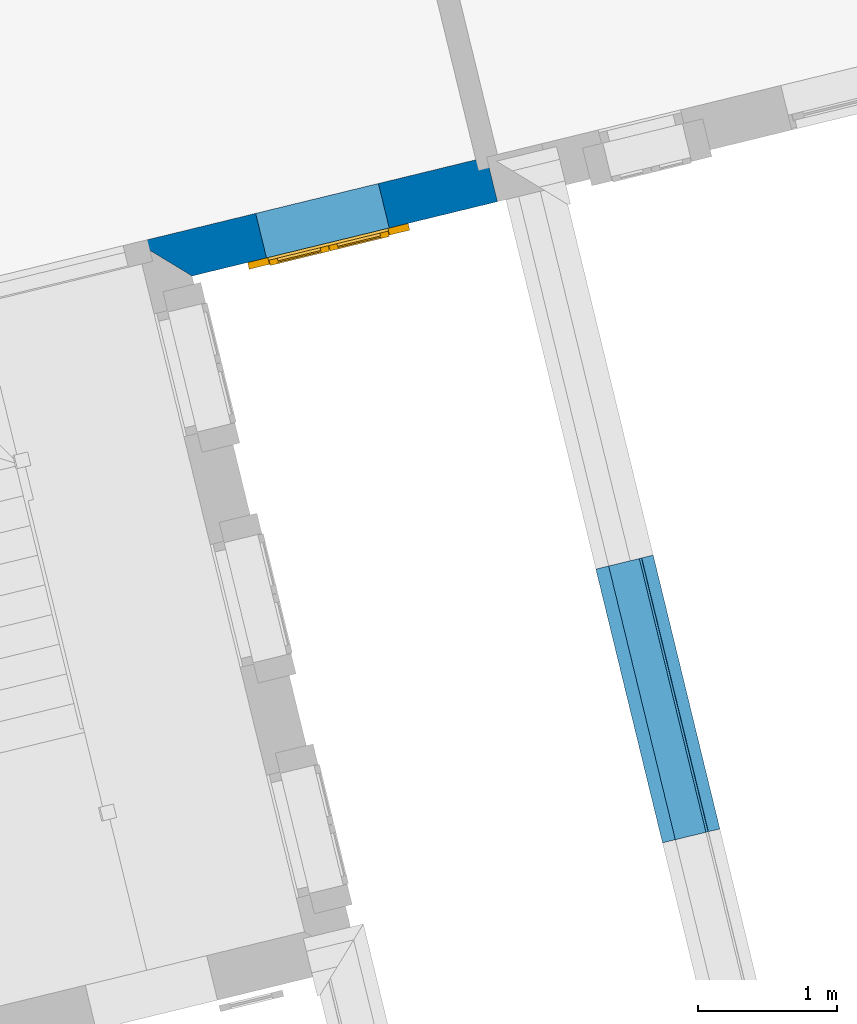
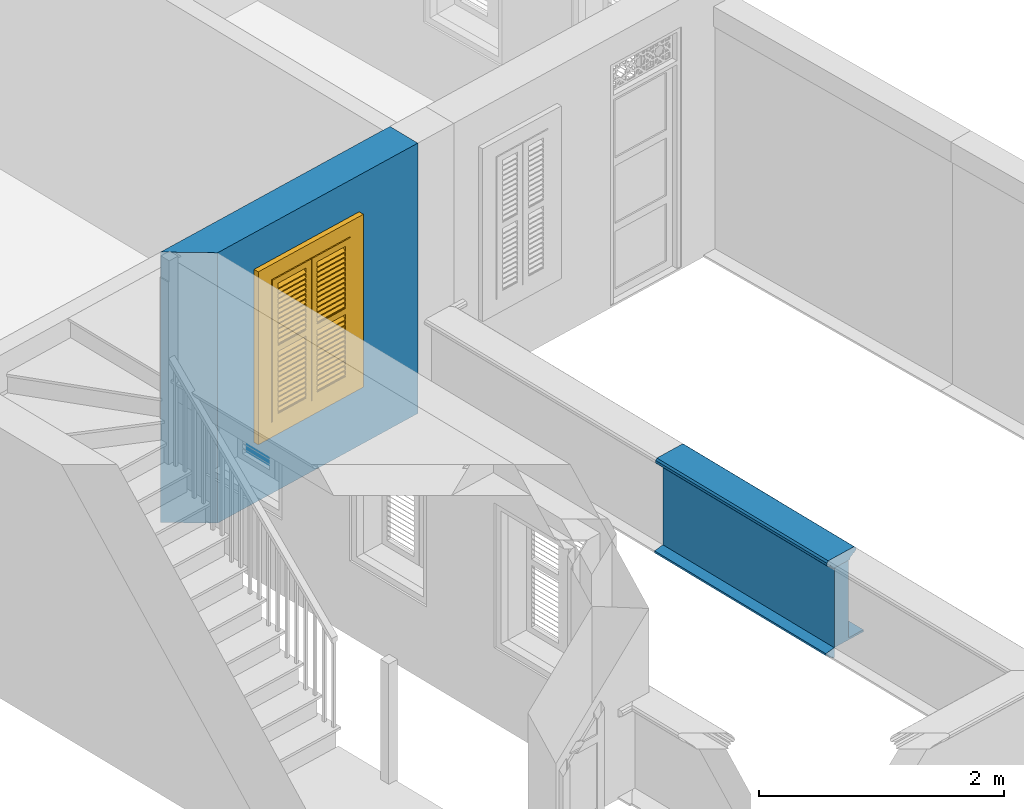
# One storey, part 4 of 9: 4 walls, 1 window, 1 opening.
"""IFC4 building model written with IfcOpenShell, lengths in metres."""

import ifcopenshell
import ifcopenshell.guid

model = None  # the IFC model being written
_history = None  # IfcOwnerHistory: only IFC2X3 demands one
_inside = {}  # id of a spatial element -> (the spatial element, [elements in it])
_under = {}  # id of a project, library or spatial element -> (it, [spatial elements below it])
_declared = {}  # id of a project -> (the project, [libraries it declares])
_typed = {}  # id of a type object -> (the type object, [elements of that type])
_made_of = {}  # id of a material, layer set ... -> (it, [elements and type objects made of it])


def new_model(schema):
    """Start an empty IFC model of exactly this schema.

    Asked for "IFC4X3", IfcOpenShell would pick the latest addendum, in which some entities
    have other attributes; the version numbers below select the first issue.
    IFC2X3 requires an IfcOwnerHistory on every rooted entity: one is made here for all.
    """
    global model, _history
    if schema == "IFC4X3":
        model = ifcopenshell.file(schema_version=(4, 3, 0, 0))
    else:
        model = ifcopenshell.file(schema=schema)
    _inside.clear()
    _under.clear()
    _declared.clear()
    _typed.clear()
    _made_of.clear()
    _history = None
    if model.schema == "IFC2X3":
        org = make("IfcOrganization", Name="unknown")
        user = make(
            "IfcPersonAndOrganization",
            ThePerson=make("IfcPerson", FamilyName="unknown"),
            TheOrganization=org,
        )
        app = make(
            "IfcApplication",
            ApplicationDeveloper=org,
            Version="unknown",
            ApplicationFullName="unknown",
            ApplicationIdentifier="unknown",
        )
        _history = make(
            "IfcOwnerHistory",
            OwningUser=user,
            OwningApplication=app,
            ChangeAction="ADDED",
            CreationDate=0,
        )
    return model


def make(cls, **values):
    """One entity of the class cls with the attributes given. An attribute that is None is left unset."""
    return model.create_entity(
        cls, **{name: value for name, value in values.items() if value is not None}
    )


def rooted(cls, **values):
    """An entity with a GlobalId (a new one), such as an element, a storey or a relation."""
    return make(cls, GlobalId=ifcopenshell.guid.new(), OwnerHistory=_history, **values)


def si_unit(unit_type, name, prefix=None):
    """IfcSIUnit, for example si_unit("LENGTHUNIT", "METRE", prefix="MILLI")."""
    return make("IfcSIUnit", UnitType=unit_type, Prefix=prefix, Name=name)


def assignment(units):
    """IfcUnitAssignment: the units of a project."""
    return None if units is None else make("IfcUnitAssignment", Units=units)


def point(xyz):
    """IfcCartesianPoint."""
    return None if xyz is None else make("IfcCartesianPoint", Coordinates=xyz)


def direction(xyz):
    """IfcDirection."""
    return None if xyz is None else make("IfcDirection", DirectionRatios=xyz)


def frame(location, z_axis=None, x_axis=None):
    """IfcAxis2Placement3D, a coordinate frame: its origin and axes. An axis left out is left unset."""
    return make(
        "IfcAxis2Placement3D",
        Location=point(location),
        Axis=direction(z_axis),
        RefDirection=direction(x_axis),
    )


def origin():
    """The frame at (0, 0, 0) with its axes left unset."""
    return frame((0.0, 0.0, 0.0))


def origin_with_axes():
    """The frame at (0, 0, 0) with the z axis (0, 0, 1) and the x axis (1, 0, 0) written out."""
    return frame((0.0, 0.0, 0.0), z_axis=(0.0, 0.0, 1.0), x_axis=(1.0, 0.0, 0.0))


def place(relative_to, where):
    """IfcLocalPlacement: puts the frame where relative to a parent placement (None: the world)."""
    return make(
        "IfcLocalPlacement", PlacementRelTo=relative_to, RelativePlacement=where
    )


def context(
    kind, dimensions, precision=None, world=None, true_north=None, identifier=None
):
    """IfcGeometricRepresentationContext, for example the 3D "Model" context."""
    return make(
        "IfcGeometricRepresentationContext",
        ContextIdentifier=identifier,
        ContextType=kind,
        CoordinateSpaceDimension=dimensions,
        Precision=precision,
        WorldCoordinateSystem=world,
        TrueNorth=true_north,
    )


def subcontext(parent, identifier, kind, view, scale=None):
    """IfcGeometricRepresentationSubContext, for example "Body" below "Model"."""
    return make(
        "IfcGeometricRepresentationSubContext",
        ContextIdentifier=identifier,
        ContextType=kind,
        ParentContext=parent,
        TargetScale=scale,
        TargetView=view,
    )


def project(units=None, contexts=None):
    """IfcProject with its units and contexts."""
    return rooted(
        "IfcProject",
        Name="project",
        RepresentationContexts=contexts,
        UnitsInContext=assignment(units),
    )


def spatial(cls, under=None, at=None, **own):
    """A site, building, storey or space (cls), placed at a placement, below another one or the project."""
    s = rooted(cls, ObjectPlacement=at, **own)
    if under is not None:
        _under.setdefault(under.id(), (under, []))[1].append(s)
    return s


def polyline(points):
    """IfcPolyline through the points."""
    return make("IfcPolyline", Points=[point(p) for p in points])


def outline(outer, holes=None, kind="AREA"):
    """IfcArbitraryClosedProfileDef: a profile drawn as a closed curve; with holes, ...WithVoids."""
    if holes is None:
        return make("IfcArbitraryClosedProfileDef", ProfileType=kind, OuterCurve=outer)
    return make(
        "IfcArbitraryProfileDefWithVoids",
        ProfileType=kind,
        OuterCurve=outer,
        InnerCurves=holes,
    )


def extrude(swept, where, along, depth):
    """IfcExtrudedAreaSolid: the profile swept, set in the frame where, extruded along a direction by depth."""
    return make(
        "IfcExtrudedAreaSolid",
        SweptArea=swept,
        Position=where,
        ExtrudedDirection=direction(along),
        Depth=depth,
    )


def clip(a, b, op="DIFFERENCE"):
    """IfcBooleanClippingResult: the solid a cut by the half space b."""
    return make(
        "IfcBooleanClippingResult", Operator=op, FirstOperand=a, SecondOperand=b
    )


def halfspace(plane, agree):
    """IfcHalfSpaceSolid: all space on one side of the plane z = 0 of the frame plane."""
    return make(
        "IfcHalfSpaceSolid",
        BaseSurface=make("IfcPlane", Position=plane),
        AgreementFlag=agree,
    )


def faces_of(points, faces, orient=None, outer=None):
    """IfcFace entities. A face is a list of loops; a loop is a list of indices into points, from 0.

    orient and outer hold one flag for each loop. By default every Orientation is true, the
    first loop of a face is its IfcFaceOuterBound and the others are IfcFaceBound.
    """
    made = []
    for i, loops in enumerate(faces):
        bounds = []
        for j, loop in enumerate(loops):
            is_outer = j == 0 if outer is None else outer[i][j]
            bounds.append(
                make(
                    "IfcFaceOuterBound" if is_outer else "IfcFaceBound",
                    Bound=make("IfcPolyLoop", Polygon=[points[k] for k in loop]),
                    Orientation=True if orient is None else orient[i][j],
                )
            )
        made.append(make("IfcFace", Bounds=bounds))
    return made


def faceted_brep(points, faces, orient=None, outer=None, voids=None):
    """IfcFacetedBrep: a solid bounded by flat faces; with voids (closed shells), ...WithVoids."""
    shared = [point(p) for p in points]
    hull = make("IfcClosedShell", CfsFaces=faces_of(shared, faces, orient, outer))
    if voids is None:
        return make("IfcFacetedBrep", Outer=hull)
    return make(
        "IfcFacetedBrepWithVoids",
        Outer=hull,
        Voids=[
            make(cls, CfsFaces=faces_of(shared, fs, o, b)) for cls, fs, o, b in voids
        ],
    )


def shape(context_of_items, identifier, shape_type, items):
    """IfcShapeRepresentation: the items that make up one representation, for example the "Body"."""
    return make(
        "IfcShapeRepresentation",
        ContextOfItems=context_of_items,
        RepresentationIdentifier=identifier,
        RepresentationType=shape_type,
        Items=items,
    )


def source(mapping_origin, context_of_items, identifier, shape_type, items):
    """IfcRepresentationMap: a shape defined once, which mapped items show again and again."""
    return make(
        "IfcRepresentationMap",
        MappingOrigin=mapping_origin,
        MappedRepresentation=shape(context_of_items, identifier, shape_type, items),
    )


def transform(
    local_origin,
    x_axis=None,
    y_axis=None,
    z_axis=None,
    scale=None,
    scale2=None,
    scale3=None,
    uniform=True,
):
    """IfcCartesianTransformationOperator3D, or its non-uniform kind. x_axis, y_axis, z_axis: its Axis1, 2, 3."""
    if uniform:
        return make(
            "IfcCartesianTransformationOperator3D",
            Axis1=direction(x_axis),
            Axis2=direction(y_axis),
            LocalOrigin=point(local_origin),
            Scale=scale,
            Axis3=direction(z_axis),
        )
    return make(
        "IfcCartesianTransformationOperator3DnonUniform",
        Axis1=direction(x_axis),
        Axis2=direction(y_axis),
        LocalOrigin=point(local_origin),
        Scale=scale,
        Axis3=direction(z_axis),
        Scale2=scale2,
        Scale3=scale3,
    )


def mapped(mapping_source, mapping_target):
    """IfcMappedItem: shows the shape of a source again, moved by a transform."""
    return make(
        "IfcMappedItem", MappingSource=mapping_source, MappingTarget=mapping_target
    )


def material(Name=None, Category=None):
    """IfcMaterial."""
    return make("IfcMaterial", Name=Name, Category=Category)


def layer(
    of_material, thickness, ventilated=None, Name=None, Category=None, Priority=None
):
    """IfcMaterialLayer: one layer of a wall or slab, of a material (None: an air gap)."""
    return make(
        "IfcMaterialLayer",
        Material=of_material,
        LayerThickness=thickness,
        IsVentilated=ventilated,
        Name=Name,
        Category=Category,
        Priority=Priority,
    )


def layer_set(layers, Name=None):
    """IfcMaterialLayerSet."""
    return make("IfcMaterialLayerSet", MaterialLayers=layers, LayerSetName=Name)


def layer_usage(for_layer_set, set_direction, sense, offset, extent=None):
    """IfcMaterialLayerSetUsage: how a layer set lies in its element."""
    return make(
        "IfcMaterialLayerSetUsage",
        ForLayerSet=for_layer_set,
        LayerSetDirection=set_direction,
        DirectionSense=sense,
        OffsetFromReferenceLine=offset,
        ReferenceExtent=extent,
    )


def material_profile(
    of_material, cross_section, Name=None, Category=None, Priority=None
):
    """IfcMaterialProfile: a cross section and its material."""
    return make(
        "IfcMaterialProfile",
        Name=Name,
        Material=of_material,
        Profile=cross_section,
        Priority=Priority,
        Category=Category,
    )


def profile_set(profiles, Name=None, composite=None):
    """IfcMaterialProfileSet."""
    return make(
        "IfcMaterialProfileSet",
        Name=Name,
        MaterialProfiles=profiles,
        CompositeProfile=composite,
    )


def profile_usage(for_profile_set, cardinal=None, extent=None):
    """IfcMaterialProfileSetUsage: how a profile set lies along its element."""
    return make(
        "IfcMaterialProfileSetUsage",
        ForProfileSet=for_profile_set,
        CardinalPoint=cardinal,
        ReferenceExtent=extent,
    )


def made_of(thing, what):
    """Note that an element or type object is made of a material, layer set ...; save() writes the relation."""
    if what is not None:
        _made_of.setdefault(what.id(), (what, []))[1].append(thing)
    return thing


def type_object(cls, material=None, **own):
    """A type object (cls), such as IfcWallType, which elements share."""
    return made_of(rooted(cls, **own), material)


def type_shapes(of_type, sources):
    """Give a type object the sources (RepresentationMaps) that its elements show as mapped items."""
    of_type.RepresentationMaps = sources


def element(
    cls,
    number,
    at=None,
    inside=None,
    cuts=None,
    type_object=None,
    material=None,
    context=None,
    identifier="Body",
    shape_type=None,
    held_by="IfcProductDefinitionShape",
    body=None,
    shapes=None,
    **own,
):
    """One element of the class cls, such as IfcWall. Its Tag is "e" and its number.

    at: its placement. inside: the storey or other place that contains it. cuts: it is an
    opening in that element (IfcRelVoidsElement). A single representation is given by context,
    identifier, shape_type and body (its items); several are given by shapes. held_by: the class
    of the entity that holds the representations. save() writes the other relations.
    """
    e = rooted(cls, Tag="e%d" % number, ObjectPlacement=at, **own)
    if body is not None:
        shapes = [shape(context, identifier, shape_type, body)]
    if shapes is not None:
        e.Representation = make(held_by, Representations=shapes)
    if inside is not None:
        _inside.setdefault(inside.id(), (inside, []))[1].append(e)
    if cuts is not None:
        rooted(
            "IfcRelVoidsElement", RelatingBuildingElement=cuts, RelatedOpeningElement=e
        )
    if type_object is not None:
        _typed.setdefault(type_object.id(), (type_object, []))[1].append(e)
    return made_of(e, material)


def fill(opening, filler):
    """IfcRelFillsElement: the door or window that sits in an opening."""
    return rooted(
        "IfcRelFillsElement",
        RelatingOpeningElement=opening,
        RelatedBuildingElement=filler,
    )


def aggregate(whole, parts):
    """IfcRelAggregates: a whole, such as a stair, and the parts it consists of."""
    return rooted("IfcRelAggregates", RelatingObject=whole, RelatedObjects=parts)


def save(model, path):
    """Write the relations noted so far, then the file.

    IfcRelAggregates (storeys below a building ...), IfcRelContainedInSpatialStructure (elements
    in a storey), IfcRelDefinesByType, IfcRelAssociatesMaterial and IfcRelDeclares: one each for
    every whole, place, type object, material and project.
    """
    for whole, parts in _under.values():
        aggregate(whole, parts)
    for where, things in _inside.values():
        rooted(
            "IfcRelContainedInSpatialStructure",
            RelatedElements=things,
            RelatingStructure=where,
        )
    for kind, things in _typed.values():
        rooted("IfcRelDefinesByType", RelatedObjects=things, RelatingType=kind)
    for what, things in _made_of.values():
        rooted("IfcRelAssociatesMaterial", RelatedObjects=things, RelatingMaterial=what)
    for by, libraries in _declared.values():
        rooted("IfcRelDeclares", RelatingContext=by, RelatedDefinitions=libraries)
    model.write(path)


model = new_model("IFC4")

# Units and contexts
model_context = context("Model", 3, world=origin_with_axes())
body_context = subcontext(model_context, "Body", "Model", "MODEL_VIEW")
ifc_project = project(units=[si_unit("PLANEANGLEUNIT", "RADIAN"), si_unit("MASSUNIT", "GRAM", prefix="KILO"), si_unit("FORCEUNIT", "NEWTON", prefix="KILO"), si_unit("LENGTHUNIT", "METRE"), si_unit("AREAUNIT", "SQUARE_METRE"), si_unit("VOLUMEUNIT", "CUBIC_METRE")], contexts=[model_context, model_context])

# Site, building, storey
site_placement = place(None, origin_with_axes())
site = spatial("IfcSite", under=ifc_project, at=site_placement, Name="Site plot-4", CompositionType="ELEMENT")
building_placement = place(None, origin_with_axes())
building = spatial("IfcBuilding", under=site, at=building_placement, Name="Building plot-4", CompositionType="ELEMENT")
storey_placement = place(None, frame((0.0, 0.0, 2.7), z_axis=(0.0, 0.0, 1.0), x_axis=(1.0, 0.0, 0.0)))
storey = spatial("IfcBuildingStorey", under=building, at=storey_placement, Name="plot-4 1", CompositionType="ELEMENT", Elevation=2.7)

# Wall, opening, window
ifc_material = material(Name="Masonry")
ifc_layer = layer(ifc_material, 0.33, ventilated=False)
ifc_layer_set = layer_set([ifc_layer], Name="exterior_0.08_0.25")
ifc_layer_usage = layer_usage(ifc_layer_set, "AXIS2", "POSITIVE", -0.25)
wall_type_1 = type_object("IfcWallType", Name="exterior_0.08_0.25", PredefinedType="SOLIDWALL", material=ifc_layer_set)
wall_1_placement = place(storey_placement, frame((20.9644587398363, 15.0250800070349, 0.0), z_axis=(0.0, 0.0, 1.0), x_axis=(0.971605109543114, 0.236608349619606, 0.0)))
wall_1 = element("IfcWall", 1, at=wall_1_placement, inside=storey, type_object=wall_type_1, material=ifc_layer_usage, Name="exterior", context=body_context, shape_type="SweptSolid", body=[
    extrude(outline(polyline([(-0.0800000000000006, 0.0799999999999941), (0.250000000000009, -0.25000000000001), (2.51389333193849, -0.249999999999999), (2.51389333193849, 0.0799999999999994), (-0.0800000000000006, 0.0799999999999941)])), origin_with_axes(), (0.0, 0.0, 1.0), 2.7),
])
opening_placement = place(wall_1_placement, frame((0.801946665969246, 0.0, 0.75)))
opening = element("IfcOpeningElement", 2, at=opening_placement, cuts=wall_1, Name="My Opening", ObjectType="Opening", context=body_context, shape_type="SweptSolid", body=[
    extrude(outline(polyline([(0.0, -0.269999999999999), (0.909999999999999, -0.27), (0.909999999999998, 1.1), (-9.99200722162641e-16, 1.1), (0.0, -0.269999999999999)])), origin_with_axes(), (0.0, 0.0, 1.0), 1.445),
])
window_type = type_object("IfcWindowType", Name="shuttered_shorter", PartitioningType="DOUBLE_PANEL_HORIZONTAL", PredefinedType="NOTDEFINED")
shared_shape = source(origin(), body_context, "Body", "Brep", [
    faceted_brep([(0.393, 0.0, 0.622), (0.074, 0.0, 0.622), (0.074, 0.0, 0.632), (0.393, 0.0, 0.632), (0.074, -0.04, 0.592), (0.393, -0.04, 0.592), (0.393, -0.04, 0.582), (0.074, -0.04, 0.582), (0.517, 0.0, 0.682), (0.836, 0.0, 0.682), (0.836, 0.0, 0.672), (0.517, 0.0, 0.672), (0.517, -0.04, 0.642), (0.836, -0.04, 0.642), (0.836, -0.04, 0.632), (0.517, -0.04, 0.632), (0.517, 0.0, 0.632), (0.836, 0.0, 0.632), (0.836, 0.0, 0.622), (0.517, 0.0, 0.622), (0.517, -0.04, 0.592), (0.836, -0.04, 0.592), (0.836, -0.04, 0.582), (0.517, -0.04, 0.582), (0.517, 0.0, 0.232), (0.836, 0.0, 0.232), (0.836, 0.0, 0.222), (0.517, 0.0, 0.222), (0.517, -0.04, 0.192), (0.836, -0.04, 0.192), (0.836, -0.04, 0.182), (0.517, -0.04, 0.182), (0.517, 0.0, 0.532), (0.836, 0.0, 0.532), (0.836, 0.0, 0.522), (0.517, 0.0, 0.522), (0.517, -0.04, 0.492), (0.836, -0.04, 0.492), (0.836, -0.04, 0.482), (0.517, -0.04, 0.482), (0.517, 0.0, 0.482), (0.836, 0.0, 0.482), (0.836, 0.0, 0.472), (0.517, 0.0, 0.472), (0.517, -0.04, 0.442), (0.836, -0.04, 0.442), (0.836, -0.04, 0.432), (0.517, -0.04, 0.432), (0.517, 0.0, 0.582), (0.836, 0.0, 0.582), (0.836, 0.0, 0.572), (0.517, 0.0, 0.572), (0.517, -0.04, 0.542), (0.836, -0.04, 0.542), (0.836, -0.04, 0.532), (0.517, -0.04, 0.532), (0.517, 0.0, 0.182), (0.836, 0.0, 0.182), (0.836, 0.0, 0.172), (0.517, 0.0, 0.172), (0.517, -0.04, 0.142), (0.836, -0.04, 0.142), (0.836, -0.04, 0.132), (0.517, -0.04, 0.132), (0.517, 0.0, 0.382), (0.836, 0.0, 0.382), (0.836, 0.0, 0.372), (0.517, 0.0, 0.372), (0.517, -0.04, 0.342), (0.836, -0.04, 0.342), (0.836, -0.04, 0.332), (0.517, -0.04, 0.332), (0.517, 0.0, 0.432), (0.836, 0.0, 0.432), (0.836, 0.0, 0.422), (0.517, 0.0, 0.422), (0.517, -0.04, 0.392), (0.836, -0.04, 0.392), (0.836, -0.04, 0.382), (0.517, -0.04, 0.382), (0.517, 0.0, 0.132), (0.836, 0.0, 0.132), (0.836, 0.0, 0.122), (0.517, 0.0, 0.122), (0.517, -0.04, 0.092), (0.836, -0.04, 0.092), (0.836, -0.04, 0.082), (0.517, -0.04, 0.082), (0.517, 0.0, 0.282), (0.836, 0.0, 0.282), (0.836, 0.0, 0.272), (0.517, 0.0, 0.272), (0.517, -0.04, 0.242), (0.836, -0.04, 0.242), (0.836, -0.04, 0.232), (0.517, -0.04, 0.232), (0.517, 0.0, 0.332), (0.836, 0.0, 0.332), (0.836, 0.0, 0.322), (0.517, 0.0, 0.322), (0.517, -0.04, 0.292), (0.836, -0.04, 0.292), (0.836, -0.04, 0.282), (0.517, -0.04, 0.282), (0.517, 0.0, 1.362667), (0.836, 0.0, 1.362667), (0.836, 0.0, 1.352667), (0.517, 0.0, 1.352667), (0.517, -0.04, 1.322667), (0.836, -0.04, 1.322667), (0.836, -0.04, 1.312667), (0.517, -0.04, 1.312667), (0.517, 0.0, 1.312667), (0.836, 0.0, 1.312667), (0.836, 0.0, 1.302667), (0.517, 0.0, 1.302667), (0.517, -0.04, 1.272667), (0.836, -0.04, 1.272667), (0.836, -0.04, 1.262667), (0.517, -0.04, 1.262667), (0.517, 0.0, 0.912667), (0.836, 0.0, 0.912667), (0.836, 0.0, 0.902667), (0.517, 0.0, 0.902667), (0.517, -0.04, 0.872667), (0.836, -0.04, 0.872667), (0.836, -0.04, 0.862667), (0.517, -0.04, 0.862667), (0.517, 0.0, 1.212667), (0.836, 0.0, 1.212667), (0.836, 0.0, 1.202667), (0.517, 0.0, 1.202667), (0.517, -0.04, 1.172667), (0.836, -0.04, 1.172667), (0.836, -0.04, 1.162667), (0.517, -0.04, 1.162667), (0.517, 0.0, 1.162667), (0.836, 0.0, 1.162667), (0.836, 0.0, 1.152667), (0.517, 0.0, 1.152667), (0.517, -0.04, 1.122667), (0.836, -0.04, 1.122667), (0.836, -0.04, 1.112667), (0.517, -0.04, 1.112667), (0.517, 0.0, 1.262667), (0.836, 0.0, 1.262667), (0.836, 0.0, 1.252667), (0.517, 0.0, 1.252667), (0.517, -0.04, 1.222667), (0.836, -0.04, 1.222667), (0.836, -0.04, 1.212667), (0.517, -0.04, 1.212667), (0.517, 0.0, 0.862667), (0.836, 0.0, 0.862667), (0.836, 0.0, 0.852667), (0.517, 0.0, 0.852667), (0.517, -0.04, 0.822667), (0.836, -0.04, 0.822667), (0.836, -0.04, 0.812667), (0.517, -0.04, 0.812667), (0.517, 0.0, 1.062667), (0.836, 0.0, 1.062667), (0.836, 0.0, 1.052667), (0.517, 0.0, 1.052667), (0.517, -0.04, 1.022667), (0.836, -0.04, 1.022667), (0.836, -0.04, 1.012667), (0.517, -0.04, 1.012667), (0.517, 0.0, 1.112667), (0.836, 0.0, 1.112667), (0.836, 0.0, 1.102667), (0.517, 0.0, 1.102667), (0.517, -0.04, 1.072667), (0.836, -0.04, 1.072667), (0.836, -0.04, 1.062667), (0.517, -0.04, 1.062667), (0.517, 0.0, 0.812667), (0.836, 0.0, 0.812667), (0.836, 0.0, 0.802667), (0.517, 0.0, 0.802667), (0.517, -0.04, 0.772667), (0.836, -0.04, 0.772667), (0.836, -0.04, 0.762667), (0.517, -0.04, 0.762667), (0.517, 0.0, 0.962667), (0.836, 0.0, 0.962667), (0.836, 0.0, 0.952667), (0.517, 0.0, 0.952667), (0.517, -0.04, 0.922667), (0.836, -0.04, 0.922667), (0.836, -0.04, 0.912667), (0.517, -0.04, 0.912667), (0.517, 0.0, 1.012667), (0.836, 0.0, 1.012667), (0.836, 0.0, 1.002667), (0.517, 0.0, 1.002667), (0.517, -0.04, 0.972667), (0.836, -0.04, 0.972667), (0.836, -0.04, 0.962667), (0.517, -0.04, 0.962667), (0.074, 0.0, 0.682), (0.393, 0.0, 0.682), (0.393, 0.0, 0.672), (0.074, 0.0, 0.672), (0.074, -0.04, 0.642), (0.393, -0.04, 0.642), (0.393, -0.04, 0.632), (0.074, -0.04, 0.632), (0.074, 0.0, 0.232), (0.393, 0.0, 0.232), (0.393, 0.0, 0.222), (0.074, 0.0, 0.222), (0.074, -0.04, 0.192), (0.393, -0.04, 0.192), (0.393, -0.04, 0.182), (0.074, -0.04, 0.182), (0.074, 0.0, 0.532), (0.393, 0.0, 0.532), (0.393, 0.0, 0.522), (0.074, 0.0, 0.522), (0.074, -0.04, 0.492), (0.393, -0.04, 0.492), (0.393, -0.04, 0.482), (0.074, -0.04, 0.482), (0.074, 0.0, 0.482), (0.393, 0.0, 0.482), (0.393, 0.0, 0.472), (0.074, 0.0, 0.472), (0.074, -0.04, 0.442), (0.393, -0.04, 0.442), (0.393, -0.04, 0.432), (0.074, -0.04, 0.432), (0.074, 0.0, 0.582), (0.393, 0.0, 0.582), (0.393, 0.0, 0.572), (0.074, 0.0, 0.572), (0.074, -0.04, 0.542), (0.393, -0.04, 0.542), (0.393, -0.04, 0.532), (0.074, -0.04, 0.532), (0.074, 0.0, 0.182), (0.393, 0.0, 0.182), (0.393, 0.0, 0.172), (0.074, 0.0, 0.172), (0.074, -0.04, 0.142), (0.393, -0.04, 0.142), (0.393, -0.04, 0.132), (0.074, -0.04, 0.132), (0.074, 0.0, 0.382), (0.393, 0.0, 0.382), (0.393, 0.0, 0.372), (0.074, 0.0, 0.372), (0.074, -0.04, 0.342), (0.393, -0.04, 0.342), (0.393, -0.04, 0.332), (0.074, -0.04, 0.332), (0.074, 0.0, 0.432), (0.393, 0.0, 0.432), (0.393, 0.0, 0.422), (0.074, 0.0, 0.422), (0.074, -0.04, 0.392), (0.393, -0.04, 0.392), (0.393, -0.04, 0.382), (0.074, -0.04, 0.382), (0.074, 0.0, 0.132), (0.393, 0.0, 0.132), (0.393, 0.0, 0.122), (0.074, 0.0, 0.122), (0.074, -0.04, 0.092), (0.393, -0.04, 0.092), (0.393, -0.04, 0.082), (0.074, -0.04, 0.082), (0.074, 0.0, 0.282), (0.393, 0.0, 0.282), (0.393, 0.0, 0.272), (0.074, 0.0, 0.272), (0.074, -0.04, 0.242), (0.393, -0.04, 0.242), (0.393, -0.04, 0.232), (0.074, -0.04, 0.232), (0.074, 0.0, 0.332), (0.393, 0.0, 0.332), (0.393, 0.0, 0.322), (0.074, 0.0, 0.322), (0.074, -0.04, 0.292), (0.393, -0.04, 0.292), (0.393, -0.04, 0.282), (0.074, -0.04, 0.282), (0.074, 0.0, 1.362667), (0.393, 0.0, 1.362667), (0.393, 0.0, 1.352667), (0.074, 0.0, 1.352667), (0.074, -0.04, 1.322667), (0.393, -0.04, 1.322667), (0.393, -0.04, 1.312667), (0.074, -0.04, 1.312667), (0.074, 0.0, 1.312667), (0.393, 0.0, 1.312667), (0.393, 0.0, 1.302667), (0.074, 0.0, 1.302667), (0.074, -0.04, 1.272667), (0.393, -0.04, 1.272667), (0.393, -0.04, 1.262667), (0.074, -0.04, 1.262667), (0.074, 0.0, 0.912667), (0.393, 0.0, 0.912667), (0.393, 0.0, 0.902667), (0.074, 0.0, 0.902667), (0.074, -0.04, 0.872667), (0.393, -0.04, 0.872667), (0.393, -0.04, 0.862667), (0.074, -0.04, 0.862667), (0.074, 0.0, 1.212667), (0.393, 0.0, 1.212667), (0.393, 0.0, 1.202667), (0.074, 0.0, 1.202667), (0.074, -0.04, 1.172667), (0.393, -0.04, 1.172667), (0.393, -0.04, 1.162667), (0.074, -0.04, 1.162667), (0.074, 0.0, 1.162667), (0.393, 0.0, 1.162667), (0.393, 0.0, 1.152667), (0.074, 0.0, 1.152667), (0.074, -0.04, 1.122667), (0.393, -0.04, 1.122667), (0.393, -0.04, 1.112667), (0.074, -0.04, 1.112667), (0.074, 0.0, 1.262667), (0.393, 0.0, 1.262667), (0.393, 0.0, 1.252667), (0.074, 0.0, 1.252667), (0.074, -0.04, 1.222667), (0.393, -0.04, 1.222667), (0.393, -0.04, 1.212667), (0.074, -0.04, 1.212667), (0.074, 0.0, 0.862667), (0.393, 0.0, 0.862667), (0.393, 0.0, 0.852667), (0.074, 0.0, 0.852667), (0.074, -0.04, 0.822667), (0.393, -0.04, 0.822667), (0.393, -0.04, 0.812667), (0.074, -0.04, 0.812667), (0.074, 0.0, 1.062667), (0.393, 0.0, 1.062667), (0.393, 0.0, 1.052667), (0.074, 0.0, 1.052667), (0.074, -0.04, 1.022667), (0.393, -0.04, 1.022667), (0.393, -0.04, 1.012667), (0.074, -0.04, 1.012667), (0.074, 0.0, 1.112667), (0.393, 0.0, 1.112667), (0.393, 0.0, 1.102667), (0.074, 0.0, 1.102667), (0.074, -0.04, 1.072667), (0.393, -0.04, 1.072667), (0.393, -0.04, 1.062667), (0.074, -0.04, 1.062667), (0.074, 0.0, 0.812667), (0.393, 0.0, 0.812667), (0.393, 0.0, 0.802667), (0.074, 0.0, 0.802667), (0.074, -0.04, 0.772667), (0.393, -0.04, 0.772667), (0.393, -0.04, 0.762667), (0.074, -0.04, 0.762667), (0.074, 0.0, 0.962667), (0.393, 0.0, 0.962667), (0.393, 0.0, 0.952667), (0.074, 0.0, 0.952667), (0.074, -0.04, 0.922667), (0.393, -0.04, 0.922667), (0.393, -0.04, 0.912667), (0.074, -0.04, 0.912667), (0.074, 0.0, 1.012667), (0.393, 0.0, 1.012667), (0.393, 0.0, 1.002667), (0.074, 0.0, 1.002667), (0.074, -0.04, 0.972667), (0.393, -0.04, 0.972667), (0.393, -0.04, 0.962667), (0.074, -0.04, 0.962667), (0.517, -0.04, 0.072), (0.457, -0.04, 0.012), (0.896, -0.04, 0.012), (0.836, -0.04, 0.072), (0.457, -0.04, 0.692667), (0.517, -0.04, 0.692667), (0.457, 0.0, 0.012), (0.896, 0.0, 0.012), (0.836, -0.04, 0.692667), (0.896, -0.04, 0.692667), (0.836, 0.0, 0.072), (0.517, 0.0, 0.072), (0.457, 0.0, 0.692667), (0.517, 0.0, 0.692667), (0.517, -0.04, 0.752666), (0.457, -0.04, 0.752666), (0.896, 0.0, 0.692667), (0.836, 0.0, 0.692667), (0.836, -0.04, 0.752666), (0.896, -0.04, 0.752666), (0.457, 0.0, 0.752666), (0.457, -0.04, 1.433333), (0.517, -0.04, 1.373333), (0.896, 0.0, 0.752666), (0.836, -0.04, 1.373333), (0.896, -0.04, 1.433333), (0.457, 0.0, 1.433333), (0.517, 0.0, 0.752666), (0.836, 0.0, 0.752666), (0.517, 0.0, 1.373333), (0.896, 0.0, 1.433333), (0.836, 0.0, 1.373333), (0.074, -0.04, 0.072), (0.014, -0.04, 0.012), (0.453, -0.04, 0.012), (0.393, -0.04, 0.072), (0.014, -0.04, 0.692667), (0.074, -0.04, 0.692667), (0.014, 0.0, 0.012), (0.453, 0.0, 0.012), (0.393, -0.04, 0.692667), (0.453, -0.04, 0.692667), (0.393, 0.0, 0.072), (0.074, 0.0, 0.072), (0.014, 0.0, 0.692667), (0.074, 0.0, 0.692667), (0.074, -0.04, 0.752666), (0.014, -0.04, 0.752666), (0.453, 0.0, 0.692667), (0.393, 0.0, 0.692667), (0.393, -0.04, 0.752666), (0.453, -0.04, 0.752666), (0.014, 0.0, 0.752666), (0.014, -0.04, 1.433333), (0.074, -0.04, 1.373333), (0.453, 0.0, 0.752666), (0.393, -0.04, 1.373333), (0.453, -0.04, 1.433333), (0.014, 0.0, 1.433333), (0.074, 0.0, 0.752666), (0.393, 0.0, 0.752666), (0.074, 0.0, 1.373333), (0.453, 0.0, 1.433333), (0.393, 0.0, 1.373333), (0.0, 0.33, 1.445), (0.91, 0.33, 1.445), (0.85, 0.33, 1.385), (0.06, 0.33, 1.385), (0.91, 0.25, 1.445), (0.0, 0.25, 1.445), (0.91, 0.25, 1.445), (0.85, 0.33, 0.06), (0.91, 0.33, 0.0), (0.85, 0.25, 1.385), (0.06, 0.25, 1.385), (0.0, 0.33, 0.0), (0.06, 0.33, 0.06), (0.0, 0.25, 0.0), (0.91, 0.25, 0.0), (0.85, 0.25, 0.06), (0.06, 0.25, 0.06), (1.05, 0.25, 1.585), (-0.14, 0.25, 1.585), (-0.14, -0.03, 1.585), (1.05, -0.03, 1.585), (0.9, -0.03, 1.435), (0.01, -0.03, 1.435), (0.01, 0.25, 1.435), (0.9, 0.25, 1.435), (0.9, 0.25, 0.01), (0.9, -0.03, 0.01), (1.05, -0.03, -0.14), (1.05, 0.25, -0.14), (0.01, -0.03, 0.01), (0.01, 0.25, 0.01), (-0.14, -0.03, -0.14), (-0.14, 0.25, -0.14)], [[[0, 1, 2, 3]], [[4, 5, 3, 2]], [[5, 6, 0, 3]], [[1, 0, 6, 7]], [[2, 1, 7, 4]], [[5, 4, 7, 6]], [[8, 9, 10, 11]], [[12, 13, 9, 8]], [[13, 14, 10, 9]], [[14, 15, 11, 10]], [[15, 12, 8, 11]], [[13, 12, 15, 14]], [[16, 17, 18, 19]], [[20, 21, 17, 16]], [[21, 22, 18, 17]], [[22, 23, 19, 18]], [[23, 20, 16, 19]], [[21, 20, 23, 22]], [[24, 25, 26, 27]], [[28, 29, 25, 24]], [[29, 30, 26, 25]], [[30, 31, 27, 26]], [[31, 28, 24, 27]], [[29, 28, 31, 30]], [[32, 33, 34, 35]], [[36, 37, 33, 32]], [[37, 38, 34, 33]], [[38, 39, 35, 34]], [[39, 36, 32, 35]], [[37, 36, 39, 38]], [[40, 41, 42, 43]], [[44, 45, 41, 40]], [[45, 46, 42, 41]], [[46, 47, 43, 42]], [[47, 44, 40, 43]], [[45, 44, 47, 46]], [[48, 49, 50, 51]], [[52, 53, 49, 48]], [[53, 54, 50, 49]], [[54, 55, 51, 50]], [[55, 52, 48, 51]], [[53, 52, 55, 54]], [[56, 57, 58, 59]], [[60, 61, 57, 56]], [[61, 62, 58, 57]], [[62, 63, 59, 58]], [[63, 60, 56, 59]], [[61, 60, 63, 62]], [[64, 65, 66, 67]], [[68, 69, 65, 64]], [[69, 70, 66, 65]], [[70, 71, 67, 66]], [[71, 68, 64, 67]], [[69, 68, 71, 70]], [[72, 73, 74, 75]], [[76, 77, 73, 72]], [[77, 78, 74, 73]], [[78, 79, 75, 74]], [[79, 76, 72, 75]], [[77, 76, 79, 78]], [[80, 81, 82, 83]], [[84, 85, 81, 80]], [[85, 86, 82, 81]], [[86, 87, 83, 82]], [[87, 84, 80, 83]], [[85, 84, 87, 86]], [[88, 89, 90, 91]], [[92, 93, 89, 88]], [[93, 94, 90, 89]], [[94, 95, 91, 90]], [[95, 92, 88, 91]], [[93, 92, 95, 94]], [[96, 97, 98, 99]], [[100, 101, 97, 96]], [[101, 102, 98, 97]], [[102, 103, 99, 98]], [[103, 100, 96, 99]], [[101, 100, 103, 102]], [[104, 105, 106, 107]], [[108, 109, 105, 104]], [[109, 110, 106, 105]], [[110, 111, 107, 106]], [[111, 108, 104, 107]], [[109, 108, 111, 110]], [[112, 113, 114, 115]], [[116, 117, 113, 112]], [[117, 118, 114, 113]], [[118, 119, 115, 114]], [[119, 116, 112, 115]], [[117, 116, 119, 118]], [[120, 121, 122, 123]], [[124, 125, 121, 120]], [[125, 126, 122, 121]], [[126, 127, 123, 122]], [[127, 124, 120, 123]], [[125, 124, 127, 126]], [[128, 129, 130, 131]], [[132, 133, 129, 128]], [[133, 134, 130, 129]], [[134, 135, 131, 130]], [[135, 132, 128, 131]], [[133, 132, 135, 134]], [[136, 137, 138, 139]], [[140, 141, 137, 136]], [[141, 142, 138, 137]], [[142, 143, 139, 138]], [[139, 143, 140, 136]], [[141, 140, 143, 142]], [[144, 145, 146, 147]], [[148, 149, 145, 144]], [[149, 150, 146, 145]], [[150, 151, 147, 146]], [[151, 148, 144, 147]], [[149, 148, 151, 150]], [[152, 153, 154, 155]], [[156, 157, 153, 152]], [[157, 158, 154, 153]], [[158, 159, 155, 154]], [[159, 156, 152, 155]], [[157, 156, 159, 158]], [[160, 161, 162, 163]], [[164, 165, 161, 160]], [[165, 166, 162, 161]], [[166, 167, 163, 162]], [[167, 164, 160, 163]], [[165, 164, 167, 166]], [[168, 169, 170, 171]], [[172, 173, 169, 168]], [[173, 174, 170, 169]], [[174, 175, 171, 170]], [[175, 172, 168, 171]], [[173, 172, 175, 174]], [[176, 177, 178, 179]], [[180, 181, 177, 176]], [[181, 182, 178, 177]], [[182, 183, 179, 178]], [[183, 180, 176, 179]], [[181, 180, 183, 182]], [[184, 185, 186, 187]], [[188, 189, 185, 184]], [[189, 190, 186, 185]], [[190, 191, 187, 186]], [[191, 188, 184, 187]], [[189, 188, 191, 190]], [[192, 193, 194, 195]], [[196, 197, 193, 192]], [[197, 198, 194, 193]], [[198, 199, 195, 194]], [[199, 196, 192, 195]], [[197, 196, 199, 198]], [[200, 201, 202, 203]], [[204, 205, 201, 200]], [[205, 206, 202, 201]], [[206, 207, 203, 202]], [[207, 204, 200, 203]], [[205, 204, 207, 206]], [[208, 209, 210, 211]], [[212, 213, 209, 208]], [[213, 214, 210, 209]], [[214, 215, 211, 210]], [[215, 212, 208, 211]], [[213, 212, 215, 214]], [[216, 217, 218, 219]], [[220, 221, 217, 216]], [[221, 222, 218, 217]], [[222, 223, 219, 218]], [[223, 220, 216, 219]], [[221, 220, 223, 222]], [[224, 225, 226, 227]], [[228, 229, 225, 224]], [[229, 230, 226, 225]], [[230, 231, 227, 226]], [[231, 228, 224, 227]], [[229, 228, 231, 230]], [[232, 233, 234, 235]], [[236, 237, 233, 232]], [[237, 238, 234, 233]], [[238, 239, 235, 234]], [[239, 236, 232, 235]], [[237, 236, 239, 238]], [[240, 241, 242, 243]], [[244, 245, 241, 240]], [[245, 246, 242, 241]], [[246, 247, 243, 242]], [[247, 244, 240, 243]], [[245, 244, 247, 246]], [[248, 249, 250, 251]], [[252, 253, 249, 248]], [[253, 254, 250, 249]], [[254, 255, 251, 250]], [[255, 252, 248, 251]], [[253, 252, 255, 254]], [[256, 257, 258, 259]], [[260, 261, 257, 256]], [[261, 262, 258, 257]], [[262, 263, 259, 258]], [[263, 260, 256, 259]], [[261, 260, 263, 262]], [[264, 265, 266, 267]], [[268, 269, 265, 264]], [[269, 270, 266, 265]], [[270, 271, 267, 266]], [[271, 268, 264, 267]], [[269, 268, 271, 270]], [[272, 273, 274, 275]], [[276, 277, 273, 272]], [[277, 278, 274, 273]], [[278, 279, 275, 274]], [[279, 276, 272, 275]], [[277, 276, 279, 278]], [[280, 281, 282, 283]], [[284, 285, 281, 280]], [[285, 286, 282, 281]], [[286, 287, 283, 282]], [[287, 284, 280, 283]], [[285, 284, 287, 286]], [[288, 289, 290, 291]], [[292, 293, 289, 288]], [[293, 294, 290, 289]], [[294, 295, 291, 290]], [[295, 292, 288, 291]], [[293, 292, 295, 294]], [[296, 297, 298, 299]], [[300, 301, 297, 296]], [[301, 302, 298, 297]], [[302, 303, 299, 298]], [[303, 300, 296, 299]], [[301, 300, 303, 302]], [[304, 305, 306, 307]], [[308, 309, 305, 304]], [[309, 310, 306, 305]], [[310, 311, 307, 306]], [[311, 308, 304, 307]], [[309, 308, 311, 310]], [[312, 313, 314, 315]], [[316, 317, 313, 312]], [[317, 318, 314, 313]], [[318, 319, 315, 314]], [[319, 316, 312, 315]], [[317, 316, 319, 318]], [[320, 321, 322, 323]], [[324, 325, 321, 320]], [[325, 326, 322, 321]], [[326, 327, 323, 322]], [[327, 324, 320, 323]], [[325, 324, 327, 326]], [[328, 329, 330, 331]], [[332, 333, 329, 328]], [[333, 334, 330, 329]], [[334, 335, 331, 330]], [[335, 332, 328, 331]], [[333, 332, 335, 334]], [[336, 337, 338, 339]], [[340, 341, 337, 336]], [[341, 342, 338, 337]], [[342, 343, 339, 338]], [[343, 340, 336, 339]], [[341, 340, 343, 342]], [[344, 345, 346, 347]], [[348, 349, 345, 344]], [[349, 350, 346, 345]], [[350, 351, 347, 346]], [[351, 348, 344, 347]], [[349, 348, 351, 350]], [[352, 353, 354, 355]], [[356, 357, 353, 352]], [[357, 358, 354, 353]], [[358, 359, 355, 354]], [[359, 356, 352, 355]], [[357, 356, 359, 358]], [[360, 361, 362, 363]], [[364, 365, 361, 360]], [[365, 366, 362, 361]], [[366, 367, 363, 362]], [[367, 364, 360, 363]], [[365, 364, 367, 366]], [[368, 369, 370, 371]], [[372, 373, 369, 368]], [[373, 374, 370, 369]], [[374, 375, 371, 370]], [[375, 372, 368, 371]], [[373, 372, 375, 374]], [[376, 377, 378, 379]], [[380, 381, 377, 376]], [[381, 382, 378, 377]], [[382, 383, 379, 378]], [[383, 380, 376, 379]], [[381, 380, 383, 382]], [[384, 385, 386, 387]], [[388, 385, 384, 389]], [[390, 391, 386, 385]], [[392, 387, 386, 393]], [[384, 387, 394, 395]], [[390, 385, 388, 396]], [[389, 384, 395, 397]], [[389, 398, 399, 388]], [[390, 395, 394, 391]], [[400, 393, 386, 391]], [[387, 392, 401, 394]], [[402, 392, 393, 403]], [[396, 388, 399, 404]], [[390, 396, 397, 395]], [[392, 389, 397, 401]], [[398, 389, 392, 402]], [[405, 399, 398, 406]], [[394, 401, 400, 391]], [[407, 403, 393, 400]], [[408, 402, 403, 409]], [[404, 399, 405, 410]], [[411, 397, 396, 404]], [[397, 411, 412, 401]], [[398, 402, 412, 411]], [[406, 398, 411, 413]], [[405, 406, 408, 409]], [[401, 412, 407, 400]], [[414, 409, 403, 407]], [[402, 408, 415, 412]], [[405, 409, 414, 410]], [[404, 410, 413, 411]], [[408, 406, 413, 415]], [[412, 415, 414, 407]], [[413, 410, 414, 415]], [[416, 417, 418, 419]], [[420, 417, 416, 421]], [[422, 423, 418, 417]], [[424, 419, 418, 425]], [[416, 419, 426, 427]], [[422, 417, 420, 428]], [[421, 416, 427, 429]], [[421, 430, 431, 420]], [[422, 427, 426, 423]], [[432, 425, 418, 423]], [[419, 424, 433, 426]], [[434, 424, 425, 435]], [[428, 420, 431, 436]], [[422, 428, 429, 427]], [[424, 421, 429, 433]], [[430, 421, 424, 434]], [[437, 431, 430, 438]], [[426, 433, 432, 423]], [[439, 435, 425, 432]], [[440, 434, 435, 441]], [[436, 431, 437, 442]], [[443, 429, 428, 436]], [[429, 443, 444, 433]], [[430, 434, 444, 443]], [[438, 430, 443, 445]], [[437, 438, 440, 441]], [[433, 444, 439, 432]], [[446, 441, 435, 439]], [[434, 440, 447, 444]], [[437, 441, 446, 442]], [[436, 442, 445, 443]], [[440, 438, 445, 447]], [[444, 447, 446, 439]], [[445, 442, 446, 447]], [[448, 449, 450, 451]], [[452, 449, 448]], [[448, 453, 454]], [[448, 454, 452]], [[455, 450, 449, 456]], [[451, 450, 457, 458]], [[459, 448, 451, 460]], [[448, 459, 461, 453]], [[454, 453, 458, 457]], [[462, 452, 454]], [[454, 457, 463]], [[454, 463, 462]], [[456, 449, 452, 462]], [[450, 455, 463, 457]], [[456, 459, 460, 455]], [[460, 451, 458, 464]], [[459, 456, 462, 461]], [[464, 458, 453, 461]], [[461, 462, 463, 464]], [[455, 460, 464, 463]], [[465, 466, 467, 468]], [[469, 470, 471, 472]], [[473, 474, 469, 472]], [[465, 468, 475, 476]], [[470, 477, 478, 471]], [[474, 473, 478, 477]], [[474, 477, 479, 475]], [[470, 467, 479, 477]], [[470, 469, 468, 467]], [[474, 475, 468, 469]], [[471, 478, 480, 466]], [[473, 472, 465, 476]], [[473, 476, 480, 478]], [[466, 465, 472, 471]], [[480, 476, 475, 479]], [[480, 479, 467, 466]]]),
])
type_shapes(window_type, [shared_shape])
window_placement = place(storey_placement, frame((21.8075184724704, 14.9524939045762, 0.75), z_axis=(0.0, 0.0, 1.0), x_axis=(0.884160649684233, 0.215313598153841, 0.0)))
window = element("IfcWindow", 3, at=window_placement, inside=storey, type_object=window_type, Name="living sahn window", OverallHeight=1.445, OverallWidth=0.91, context=body_context, shape_type="MappedRepresentation", body=[
    mapped(shared_shape, transform((0.0, 0.0, 0.0), scale=1.0)),
])
fill(opening, window)

# Walls
ifc_material_profile_1 = material_profile(None, outline(polyline([(0.25, 0.0), (0.25, 0.795), (0.09, 0.795), (0.09, 0.02), (-0.08, 0.02), (-0.08, 0.0), (0.25, 0.0)])))
ifc_profile_set_1 = profile_set([ifc_material_profile_1])
ifc_profile_usage_1 = profile_usage(ifc_profile_set_1)
wall_type_2 = type_object("IfcWallType", Name="parapet internal_0", PredefinedType="PARAPET", material=ifc_profile_set_1)
wall_2_placement = place(storey_placement, frame((25.226420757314, 9.86984615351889, 0.0), z_axis=(-0.236608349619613, 0.971605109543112, 0.0), x_axis=(-0.971605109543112, -0.236608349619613, 0.0)))
element("IfcWall", 4, at=wall_2_placement, inside=storey, type_object=wall_type_2, material=ifc_profile_usage_1, Name="parapet internal_0", context=body_context, shape_type="Clipping", body=[
    clip(clip(extrude(outline(polyline([(0.25, 0.0), (0.25, 0.795), (0.09, 0.795), (0.09, 0.02), (-0.08, 0.02), (-0.08, 0.0), (0.25, 0.0)])), origin_with_axes(), (0.0, 0.0, 1.0), 4.02880233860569), halfspace(frame((0.0, 0.0, 3.02880233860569), z_axis=(-3.11474770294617e-14, 0.0, -1.0), x_axis=(0.0, 1.0, 0.0)), True)), halfspace(frame((0.0, 0.0, 1.0), z_axis=(-9.49410759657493e-16, 0.0, -1.0), x_axis=(0.0, 1.0, 0.0)), False)),
])
ifc_material_profile_2 = material_profile(None, outline(polyline([(0.265, 0.795), (0.268, 0.807), (0.274, 0.816), (0.283, 0.822), (0.295, 0.825), (0.295, 0.84), (0.305, 0.84), (0.317, 0.842), (0.326, 0.849), (0.333, 0.858), (0.335, 0.87), (0.333, 0.882), (0.326, 0.891), (0.317, 0.898), (0.305, 0.9), (0.035, 0.9), (0.023, 0.898), (0.014, 0.891), (0.007, 0.882), (0.005, 0.87), (0.007, 0.858), (0.014, 0.849), (0.023, 0.842), (0.035, 0.84), (0.045, 0.84), (0.045, 0.825), (0.057, 0.822), (0.066, 0.816), (0.072, 0.807), (0.075, 0.795), (0.265, 0.795)])))
ifc_profile_set_2 = profile_set([ifc_material_profile_2])
ifc_profile_usage_2 = profile_usage(ifc_profile_set_2)
wall_type_3 = type_object("IfcWallType", Name="parapet internal_1", PredefinedType="PARAPET", material=ifc_profile_set_2)
wall_3_placement = place(storey_placement, frame((25.226420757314, 9.86984615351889, 0.0), z_axis=(-0.236608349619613, 0.971605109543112, 0.0), x_axis=(-0.971605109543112, -0.236608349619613, 0.0)))
element("IfcWall", 5, at=wall_3_placement, inside=storey, type_object=wall_type_3, material=ifc_profile_usage_2, Name="parapet internal_1", context=body_context, shape_type="Clipping", body=[
    clip(clip(extrude(outline(polyline([(0.265, 0.795), (0.268, 0.807), (0.274, 0.816), (0.283, 0.822), (0.295, 0.825), (0.295, 0.84), (0.305, 0.84), (0.317, 0.842), (0.326, 0.849), (0.333, 0.858), (0.335, 0.87), (0.333, 0.882), (0.326, 0.891), (0.317, 0.898), (0.305, 0.9), (0.035, 0.9), (0.023, 0.898), (0.014, 0.891), (0.007, 0.882), (0.005, 0.87), (0.007, 0.858), (0.014, 0.849), (0.023, 0.842), (0.035, 0.84), (0.045, 0.84), (0.045, 0.825), (0.057, 0.822), (0.066, 0.816), (0.072, 0.807), (0.075, 0.795), (0.265, 0.795)])), origin_with_axes(), (0.0, 0.0, 1.0), 4.02880233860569), halfspace(frame((0.0, 0.0, 3.02880233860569), z_axis=(-3.11474770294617e-14, 0.0, -1.0), x_axis=(0.0, 1.0, 0.0)), True)), halfspace(frame((0.0, 0.0, 1.0), z_axis=(-9.49410759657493e-16, 0.0, -1.0), x_axis=(0.0, 1.0, 0.0)), False)),
])
ifc_material_profile_3 = material_profile(None, outline(polyline([(0.25, -0.1), (0.265, -0.1), (0.265, -0.085), (0.278, -0.084), (0.289, -0.081), (0.301, -0.074), (0.309, -0.065), (0.315, -0.055), (0.324, -0.044), (0.334, -0.038), (0.345, -0.035), (0.345, -0.015), (0.25, 0.0), (0.25, -0.1)])))
ifc_profile_set_3 = profile_set([ifc_material_profile_3])
ifc_profile_usage_3 = profile_usage(ifc_profile_set_3)
wall_type_4 = type_object("IfcWallType", Name="parapet internal_2", PredefinedType="PARAPET", material=ifc_profile_set_3)
wall_4_placement = place(storey_placement, frame((25.226420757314, 9.86984615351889, 0.0), z_axis=(-0.236608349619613, 0.971605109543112, 0.0), x_axis=(-0.971605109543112, -0.236608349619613, 0.0)))
element("IfcWall", 6, at=wall_4_placement, inside=storey, type_object=wall_type_4, material=ifc_profile_usage_3, Name="parapet internal_2", context=body_context, shape_type="Clipping", body=[
    clip(clip(extrude(outline(polyline([(0.25, -0.1), (0.265, -0.1), (0.265, -0.085), (0.278, -0.084), (0.289, -0.081), (0.301, -0.074), (0.309, -0.065), (0.315, -0.055), (0.324, -0.044), (0.334, -0.038), (0.345, -0.035), (0.345, -0.015), (0.25, 0.0), (0.25, -0.1)])), origin_with_axes(), (0.0, 0.0, 1.0), 4.02880233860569), halfspace(frame((0.0, 0.0, 3.02880233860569), z_axis=(-3.11474770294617e-14, 0.0, -1.0), x_axis=(0.0, 1.0, 0.0)), True)), halfspace(frame((0.0, 0.0, 1.0), z_axis=(-9.49410759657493e-16, 0.0, -1.0), x_axis=(0.0, 1.0, 0.0)), False)),
])

save(model, "model.ifc")
